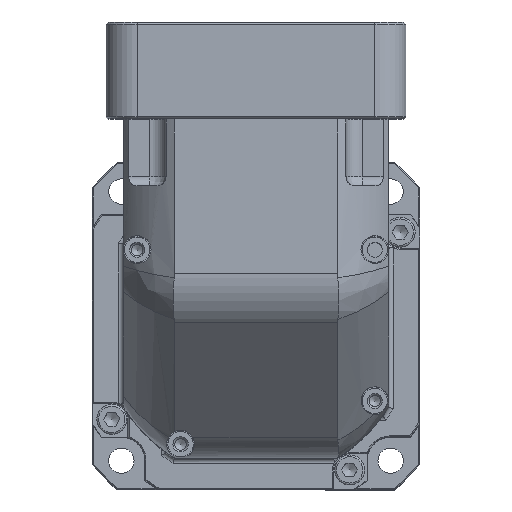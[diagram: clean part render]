
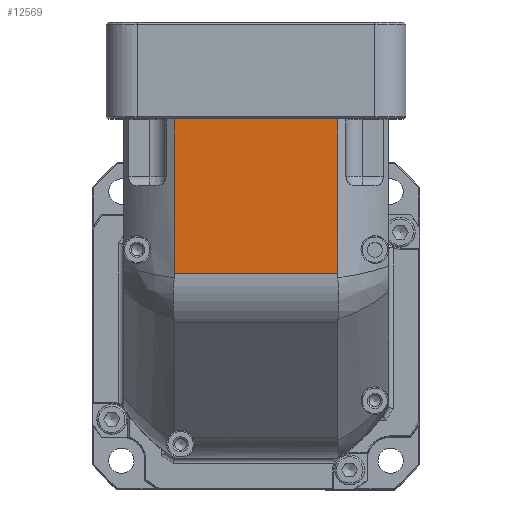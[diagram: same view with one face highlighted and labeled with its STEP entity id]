
A CAD part, top view. The second image highlights one B-rep face of the part: STEP entity #12569.
In plain terms, the highlighted planar face has unit normal (0, 0, 1).
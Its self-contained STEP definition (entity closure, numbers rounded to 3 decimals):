
#12065=CARTESIAN_POINT('',(-35.355,89.3,201.3));
#12066=VERTEX_POINT('',#12065);
#12074=CARTESIAN_POINT('',(35.355,89.3,201.3));
#12075=VERTEX_POINT('',#12074);
#12076=CARTESIAN_POINT('',(35.355,89.3,201.3));
#12077=DIRECTION('',(-1.0,0.0,0.0));
#12078=VECTOR('',#12077,70.711);
#12079=LINE('',#12076,#12078);
#12080=EDGE_CURVE('',#12075,#12066,#12079,.T.);
#12462=CARTESIAN_POINT('',(35.355,22.292,201.3));
#12463=VERTEX_POINT('',#12462);
#12464=CARTESIAN_POINT('',(35.355,22.292,201.3));
#12465=DIRECTION('',(0.0,1.0,0.0));
#12466=VECTOR('',#12465,67.008);
#12467=LINE('',#12464,#12466);
#12468=EDGE_CURVE('',#12463,#12075,#12467,.T.);
#12546=CARTESIAN_POINT('',(0.,0.,201.3));
#12547=DIRECTION('',(0.0,0.0,-1.0));
#12548=DIRECTION('',(1.0,0.0,0.0));
#12549=AXIS2_PLACEMENT_3D('',#12546,#12547,#12548);
#12550=PLANE('',#12549);
#12551=ORIENTED_EDGE('',*,*,#12080,.T.);
#12552=CARTESIAN_POINT('',(-35.355,22.292,201.3));
#12553=VERTEX_POINT('',#12552);
#12554=CARTESIAN_POINT('',(-35.355,89.3,201.3));
#12555=DIRECTION('',(0.0,-1.0,0.0));
#12556=VECTOR('',#12555,67.008);
#12557=LINE('',#12554,#12556);
#12558=EDGE_CURVE('',#12066,#12553,#12557,.T.);
#12559=ORIENTED_EDGE('',*,*,#12558,.T.);
#12560=CARTESIAN_POINT('',(35.355,22.292,201.3));
#12561=DIRECTION('',(-1.0,0.0,0.0));
#12562=VECTOR('',#12561,70.711);
#12563=LINE('',#12560,#12562);
#12564=EDGE_CURVE('',#12463,#12553,#12563,.T.);
#12565=ORIENTED_EDGE('',*,*,#12564,.F.);
#12566=ORIENTED_EDGE('',*,*,#12468,.T.);
#12567=EDGE_LOOP('',(#12551,#12559,#12565,#12566));
#12568=FACE_OUTER_BOUND('',#12567,.T.);
#12569=ADVANCED_FACE('',(#12568),#12550,.F.);
